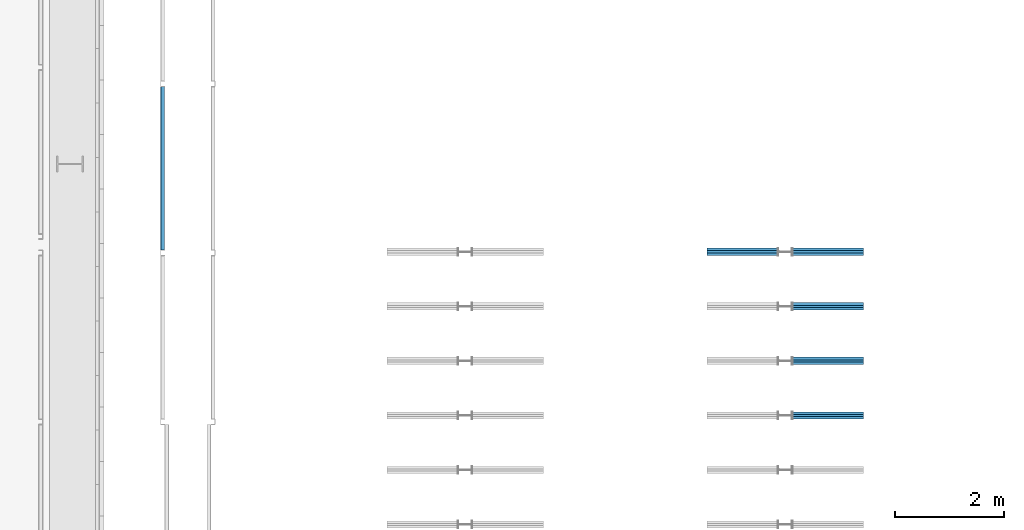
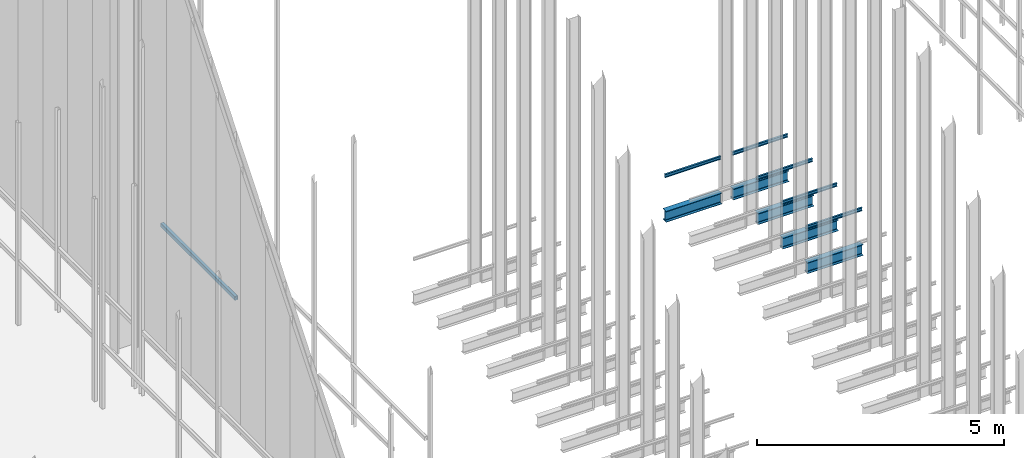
# One storey, part 185 of 302: 11 beams.
"""IFC2X3 building model written with IfcOpenShell, lengths in metres."""

from ifc_helpers import new_model, entity, si_unit, converted_unit, derived_unit, direction, frame, frame_2d, origin, place, context, subcontext, project, spatial, polyline, circle_curve, parameter, trimmed, segment, composite_curve, i_section, outline, extrude, material, type_object, element, save


model = new_model("IFC2X3")

# Units and contexts
model_context = context("Model", 3, precision=1e-05, world=origin(), true_north=direction((6.12303176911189e-17, 1.0)))
body_context = subcontext(model_context, "Body", "Model", "MODEL_VIEW")
ifc_project = project(units=[si_unit("LENGTHUNIT", "METRE"), si_unit("AREAUNIT", "SQUARE_METRE"), si_unit("VOLUMEUNIT", "CUBIC_METRE"), converted_unit("PLANEANGLEUNIT", "DEGREE", entity("IfcRatioMeasure", 0.0174532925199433), si_unit("PLANEANGLEUNIT", "RADIAN"), dimensions=[0, 0, 0, 0, 0, 0, 0]), si_unit("MASSUNIT", "GRAM", prefix="KILO"), derived_unit("MASSDENSITYUNIT", [(si_unit("MASSUNIT", "GRAM", prefix="KILO"), 1), (si_unit("LENGTHUNIT", "METRE"), -3)]), derived_unit("MOMENTOFINERTIAUNIT", [(si_unit("LENGTHUNIT", "METRE"), 4)]), si_unit("TIMEUNIT", "SECOND"), si_unit("FREQUENCYUNIT", "HERTZ"), si_unit("THERMODYNAMICTEMPERATUREUNIT", "DEGREE_CELSIUS"), derived_unit("THERMALTRANSMITTANCEUNIT", [(si_unit("MASSUNIT", "GRAM", prefix="KILO"), 1), (si_unit("THERMODYNAMICTEMPERATUREUNIT", "KELVIN"), -1), (si_unit("TIMEUNIT", "SECOND"), -3)]), derived_unit("VOLUMETRICFLOWRATEUNIT", [(si_unit("LENGTHUNIT", "METRE"), 3), (si_unit("TIMEUNIT", "SECOND"), -1)]), si_unit("ELECTRICCURRENTUNIT", "AMPERE"), si_unit("ELECTRICVOLTAGEUNIT", "VOLT"), si_unit("POWERUNIT", "WATT"), si_unit("FORCEUNIT", "NEWTON", prefix="KILO"), si_unit("ILLUMINANCEUNIT", "LUX"), si_unit("LUMINOUSFLUXUNIT", "LUMEN"), si_unit("LUMINOUSINTENSITYUNIT", "CANDELA"), derived_unit("USERDEFINED", [(si_unit("MASSUNIT", "GRAM", prefix="KILO"), -1), (si_unit("LENGTHUNIT", "METRE"), -2), (si_unit("TIMEUNIT", "SECOND"), 3), (si_unit("LUMINOUSFLUXUNIT", "LUMEN"), 1)]), derived_unit("LINEARVELOCITYUNIT", [(si_unit("LENGTHUNIT", "METRE"), 1), (si_unit("TIMEUNIT", "SECOND"), -1)]), si_unit("PRESSUREUNIT", "PASCAL"), derived_unit("USERDEFINED", [(si_unit("LENGTHUNIT", "METRE"), -2), (si_unit("MASSUNIT", "GRAM", prefix="KILO"), 1), (si_unit("TIMEUNIT", "SECOND"), -2)]), derived_unit("LINEARFORCEUNIT", [(si_unit("MASSUNIT", "GRAM", prefix="KILO"), 1), (si_unit("LENGTHUNIT", "METRE"), 1), (si_unit("TIMEUNIT", "SECOND"), -2), (si_unit("LENGTHUNIT", "METRE"), -1)]), derived_unit("PLANARFORCEUNIT", [(si_unit("MASSUNIT", "GRAM", prefix="KILO"), 1), (si_unit("LENGTHUNIT", "METRE"), 1), (si_unit("TIMEUNIT", "SECOND"), -2), (si_unit("LENGTHUNIT", "METRE"), -2)])], contexts=[model_context])

# Site, building, storey
site_placement = place(None, origin())
site = spatial("IfcSite", under=ifc_project, at=site_placement, Name="Default", CompositionType="ELEMENT")
building_placement = place(site_placement, origin())
building = spatial("IfcBuilding", under=site, at=building_placement, CompositionType="ELEMENT")
storey_placement = place(building_placement, frame((0.0, 0.0, -1.3)))
storey = spatial("IfcBuildingStorey", under=building, at=storey_placement, Name="00_EG", CompositionType="ELEMENT", Elevation=-1.3)

# Beams
ifc_material_1 = material(Name="Metall - Baustahl S235 blau")
beam_type_1 = type_object("IfcBeamType", Name="RHS Träger (EN 10219-2):RHS 100 x 75 x 5", PredefinedType="NOTDEFINED")
beam_1_placement = place(storey_placement, frame((-176.155111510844, 55.0480889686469, 2.885), z_axis=(0.0, 0.0, 1.0), x_axis=(0.0, 1.0, 0.0)))
element("IfcBeam", 1, at=beam_1_placement, inside=storey, type_object=beam_type_1, material=ifc_material_1, Name="RHS Träger (EN 10219-2):RHS 100 x 75 x 5", ObjectType="RHS Träger (EN 10219-2):RHS 100 x 75 x 5", context=body_context, shape_type="SweptSolid", body=[
    extrude(outline(composite_curve([segment(trimmed(circle_curve(frame_2d((-0.0274999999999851, -0.0400000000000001), x_axis=(1.0, 0.0)), 0.01), [parameter(180.0)], [parameter(270.0)], True, "PARAMETER"), True, "CONTINUOUS"), segment(polyline([(-0.0274999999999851, -0.05), (0.0274999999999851, -0.05)]), True, "CONTINUOUS"), segment(trimmed(circle_curve(frame_2d((0.0274999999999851, -0.0400000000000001), x_axis=(1.0, 0.0)), 0.01), [parameter(270.0)], [parameter(5.08888749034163e-14)], True, "PARAMETER"), True, "CONTINUOUS"), segment(polyline([(0.0375000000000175, -0.0399999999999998), (0.0375000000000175, 0.0400000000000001)]), True, "CONTINUOUS"), segment(trimmed(circle_curve(frame_2d((0.0274999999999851, 0.0399999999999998), x_axis=(1.0, 0.0)), 0.01), [parameter(360.0)], [parameter(89.9999999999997)], True, "PARAMETER"), True, "CONTINUOUS"), segment(polyline([(0.0274999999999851, 0.05), (-0.0274999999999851, 0.05)]), True, "CONTINUOUS"), segment(trimmed(circle_curve(frame_2d((-0.0274999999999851, 0.0399999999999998), x_axis=(1.0, 0.0)), 0.01), [parameter(90.0000000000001)], [parameter(180.0)], True, "PARAMETER"), True, "CONTINUOUS"), segment(polyline([(-0.0374999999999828, 0.0400000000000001), (-0.0374999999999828, -0.0399999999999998)]), True, "CONTINUOUS")], self_intersect=False), holes=[composite_curve([segment(polyline([(0.0274999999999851, -0.0450000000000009), (-0.0274999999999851, -0.0450000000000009)]), True, "CONTINUOUS"), segment(trimmed(circle_curve(frame_2d((-0.0274999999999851, -0.0400000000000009), x_axis=(1.0, 0.0)), 0.005), [parameter(180.0)], [parameter(270.0)], True, "PARAMETER"), False, "CONTINUOUS"), segment(polyline([(-0.0325000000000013, -0.0400000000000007), (-0.0325000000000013, 0.0399999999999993)]), True, "CONTINUOUS"), segment(trimmed(circle_curve(frame_2d((-0.0274999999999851, 0.039999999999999), x_axis=(1.0, 0.0)), 0.005), [parameter(90.0000000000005)], [parameter(180.0)], True, "PARAMETER"), False, "CONTINUOUS"), segment(polyline([(-0.0274999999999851, 0.0449999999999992), (0.0274999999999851, 0.0449999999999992)]), True, "CONTINUOUS"), segment(trimmed(circle_curve(frame_2d((0.0274999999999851, 0.039999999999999), x_axis=(1.0, 0.0)), 0.005), [parameter(0.0)], [parameter(90.0000000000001)], True, "PARAMETER"), False, "CONTINUOUS"), segment(polyline([(0.0325000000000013, 0.0399999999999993), (0.0325000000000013, -0.0400000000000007)]), True, "CONTINUOUS"), segment(trimmed(circle_curve(frame_2d((0.0274999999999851, -0.0400000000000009), x_axis=(1.0, 0.0)), 0.005), [parameter(270.0)], [parameter(4.07110999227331e-13)], True, "PARAMETER"), False, "CONTINUOUS")], self_intersect=False)]), frame((9.99999999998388e-05, 0.0375000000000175, -0.0500000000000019), z_axis=(1.0, 0.0, 0.0), x_axis=(0.0, -1.0, 0.0)), (0.0, 0.0, 1.0), 2.99979999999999),
])
ifc_material_2 = material(Name="Metall - Baustahl S235")
beam_type_2 = type_object("IfcBeamType", Name="IPN Träger:IPN 80", PredefinedType="NOTDEFINED")
beam_2_placement = place(storey_placement, frame((-164.640111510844, 54.9945889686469, 2.42)))
element("IfcBeam", 2, at=beam_2_placement, inside=storey, type_object=beam_type_2, material=ifc_material_2, Name="IPN Träger:IPN 80", ObjectType="IPN Träger:IPN 80", context=body_context, shape_type="SweptSolid", body=[
    extrude(outline(composite_curve([segment(polyline([(0.0375704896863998, -0.0210000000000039), (0.0399999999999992, -0.0210000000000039)]), True, "CONTINUOUS"), segment(polyline([(0.0399999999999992, -0.0210000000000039), (0.0399999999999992, 0.0209999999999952)]), True, "CONTINUOUS"), segment(polyline([(0.039999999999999, 0.0209999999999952), (0.037570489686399, 0.0209999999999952)]), True, "CONTINUOUS"), segment(trimmed(circle_curve(frame_2d((0.0375704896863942, 0.0187000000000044), x_axis=(0.0, 1.0)), 0.0022999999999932), [parameter(0.0)], [parameter(82.0300000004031)], True, "PARAMETER"), True, "CONTINUOUS"), segment(polyline([(0.0352927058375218, 0.019018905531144), (0.0333732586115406, 0.00530924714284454)]), True, "CONTINUOUS"), segment(trimmed(circle_curve(frame_2d((0.0295109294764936, 0.00584999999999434), x_axis=(0.990340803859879, -0.138654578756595)), 0.00389999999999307), [parameter(277.969999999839)], [parameter(0.0)], True, "PARAMETER"), False, "CONTINUOUS"), segment(polyline([(0.0295109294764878, 0.00194999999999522), (-0.0295109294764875, 0.00194999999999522)]), True, "CONTINUOUS"), segment(trimmed(circle_curve(frame_2d((-0.0295109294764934, 0.00584999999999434), x_axis=(0.0, -1.0)), 0.00389999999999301), [parameter(277.969999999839)], [parameter(0.0)], True, "PARAMETER"), False, "CONTINUOUS"), segment(polyline([(-0.0333732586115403, 0.00530924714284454), (-0.0352927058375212, 0.019018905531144)]), True, "CONTINUOUS"), segment(trimmed(circle_curve(frame_2d((-0.0375704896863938, 0.0187000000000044), x_axis=(0.990340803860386, 0.138654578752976)), 0.00229999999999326), [parameter(0.0)], [parameter(82.0300000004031)], True, "PARAMETER"), True, "CONTINUOUS"), segment(polyline([(-0.0375704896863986, 0.0209999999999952), (-0.0400000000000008, 0.0209999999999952)]), True, "CONTINUOUS"), segment(polyline([(-0.0400000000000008, 0.0209999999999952), (-0.0400000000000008, -0.0210000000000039)]), True, "CONTINUOUS"), segment(polyline([(-0.0400000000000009, -0.0210000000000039), (-0.037570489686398, -0.0210000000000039)]), True, "CONTINUOUS"), segment(trimmed(circle_curve(frame_2d((-0.0375704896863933, -0.0187000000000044), x_axis=(0.0, -1.0)), 0.00229999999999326), [parameter(0.0)], [parameter(82.0300000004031)], True, "PARAMETER"), True, "CONTINUOUS"), segment(polyline([(-0.0352927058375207, -0.019018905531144), (-0.0333732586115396, -0.00530924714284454)]), True, "CONTINUOUS"), segment(trimmed(circle_curve(frame_2d((-0.0295109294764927, -0.00584999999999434), x_axis=(-0.990340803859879, 0.138654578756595)), 0.00389999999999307), [parameter(277.969999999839)], [parameter(0.0)], True, "PARAMETER"), False, "CONTINUOUS"), segment(polyline([(-0.0295109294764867, -0.00195000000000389), (0.0295109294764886, -0.00195000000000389)]), True, "CONTINUOUS"), segment(trimmed(circle_curve(frame_2d((0.0295109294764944, -0.00584999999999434), x_axis=(0.0, 1.0)), 0.00389999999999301), [parameter(277.969999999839)], [parameter(0.0)], True, "PARAMETER"), False, "CONTINUOUS"), segment(polyline([(0.0333732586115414, -0.00530924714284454), (0.0352927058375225, -0.019018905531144)]), True, "CONTINUOUS"), segment(trimmed(circle_curve(frame_2d((0.0375704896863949, -0.0187000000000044), x_axis=(-0.990340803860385, -0.138654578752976)), 0.00229999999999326), [parameter(0.0)], [parameter(82.0300000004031)], True, "PARAMETER"), True, "CONTINUOUS")], self_intersect=False)), frame((9.99999999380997e-05, 0.0209999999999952, -0.0400000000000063), z_axis=(1.0, 0.0, 0.0), x_axis=(0.0, 0.0, -1.0)), (0.0, 0.0, 1.0), 1.29990000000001),
])
beam_3_placement = place(storey_placement, frame((-164.910111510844, 55.0365889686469, 2.42), z_axis=(0.0, 0.0, 1.0), x_axis=(-1.0, 0.0, 0.0)))
element("IfcBeam", 3, at=beam_3_placement, inside=storey, type_object=beam_type_2, material=ifc_material_2, Name="IPN Träger:IPN 80", ObjectType="IPN Träger:IPN 80", context=body_context, shape_type="SweptSolid", body=[
    extrude(outline(composite_curve([segment(polyline([(0.0375704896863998, -0.0209999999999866), (0.0399999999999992, -0.0209999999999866)]), True, "CONTINUOUS"), segment(polyline([(0.0399999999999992, -0.0209999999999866), (0.0399999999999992, 0.0210000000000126)]), True, "CONTINUOUS"), segment(polyline([(0.039999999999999, 0.0210000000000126), (0.037570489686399, 0.0210000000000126)]), True, "CONTINUOUS"), segment(trimmed(circle_curve(frame_2d((0.0375704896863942, 0.0187000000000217), x_axis=(0.0, 1.0)), 0.0022999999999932), [parameter(0.0)], [parameter(82.0300000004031)], True, "PARAMETER"), True, "CONTINUOUS"), segment(polyline([(0.0352927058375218, 0.0190189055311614), (0.0333732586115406, 0.00530924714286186)]), True, "CONTINUOUS"), segment(trimmed(circle_curve(frame_2d((0.0295109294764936, 0.00585000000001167), x_axis=(0.990340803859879, -0.138654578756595)), 0.00389999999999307), [parameter(277.969999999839)], [parameter(0.0)], True, "PARAMETER"), False, "CONTINUOUS"), segment(polyline([(0.0295109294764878, 0.00195000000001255), (-0.0295109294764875, 0.00195000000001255)]), True, "CONTINUOUS"), segment(trimmed(circle_curve(frame_2d((-0.0295109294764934, 0.00585000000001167), x_axis=(0.0, -1.0)), 0.00389999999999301), [parameter(277.969999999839)], [parameter(0.0)], True, "PARAMETER"), False, "CONTINUOUS"), segment(polyline([(-0.0333732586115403, 0.00530924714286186), (-0.0352927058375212, 0.0190189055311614)]), True, "CONTINUOUS"), segment(trimmed(circle_curve(frame_2d((-0.0375704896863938, 0.0187000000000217), x_axis=(0.990340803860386, 0.138654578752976)), 0.00229999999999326), [parameter(0.0)], [parameter(82.0300000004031)], True, "PARAMETER"), True, "CONTINUOUS"), segment(polyline([(-0.0375704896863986, 0.0210000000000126), (-0.0400000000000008, 0.0210000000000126)]), True, "CONTINUOUS"), segment(polyline([(-0.0400000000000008, 0.0210000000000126), (-0.0400000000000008, -0.0209999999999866)]), True, "CONTINUOUS"), segment(polyline([(-0.0400000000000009, -0.0209999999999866), (-0.037570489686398, -0.0209999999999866)]), True, "CONTINUOUS"), segment(trimmed(circle_curve(frame_2d((-0.0375704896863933, -0.0186999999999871), x_axis=(0.0, -1.0)), 0.00229999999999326), [parameter(0.0)], [parameter(82.0300000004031)], True, "PARAMETER"), True, "CONTINUOUS"), segment(polyline([(-0.0352927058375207, -0.0190189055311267), (-0.0333732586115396, -0.00530924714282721)]), True, "CONTINUOUS"), segment(trimmed(circle_curve(frame_2d((-0.0295109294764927, -0.00584999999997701), x_axis=(-0.990340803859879, 0.138654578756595)), 0.00389999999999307), [parameter(277.969999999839)], [parameter(0.0)], True, "PARAMETER"), False, "CONTINUOUS"), segment(polyline([(-0.0295109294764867, -0.00194999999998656), (0.0295109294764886, -0.00194999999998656)]), True, "CONTINUOUS"), segment(trimmed(circle_curve(frame_2d((0.0295109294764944, -0.00584999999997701), x_axis=(0.0, 1.0)), 0.00389999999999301), [parameter(277.969999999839)], [parameter(0.0)], True, "PARAMETER"), False, "CONTINUOUS"), segment(polyline([(0.0333732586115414, -0.00530924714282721), (0.0352927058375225, -0.0190189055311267)]), True, "CONTINUOUS"), segment(trimmed(circle_curve(frame_2d((0.0375704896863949, -0.0186999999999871), x_axis=(-0.990340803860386, -0.138654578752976)), 0.00229999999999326), [parameter(0.0)], [parameter(82.0300000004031)], True, "PARAMETER"), True, "CONTINUOUS")], self_intersect=False)), frame((0.000100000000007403, 0.0209999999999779, -0.0400000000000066), z_axis=(1.0, 0.0, 0.0), x_axis=(0.0, 0.0, -1.0)), (0.0, 0.0, 1.0), 1.29990000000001),
])
beam_4_placement = place(storey_placement, frame((-164.640111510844, 53.9945889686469, 2.42)))
element("IfcBeam", 4, at=beam_4_placement, inside=storey, type_object=beam_type_2, material=ifc_material_2, Name="IPN Träger:IPN 80", ObjectType="IPN Träger:IPN 80", context=body_context, shape_type="SweptSolid", body=[
    extrude(outline(composite_curve([segment(polyline([(0.0375704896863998, -0.0210000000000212), (0.0399999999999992, -0.0210000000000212)]), True, "CONTINUOUS"), segment(polyline([(0.0399999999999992, -0.0210000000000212), (0.0399999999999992, 0.0209999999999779)]), True, "CONTINUOUS"), segment(polyline([(0.039999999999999, 0.0209999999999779), (0.037570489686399, 0.0209999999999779)]), True, "CONTINUOUS"), segment(trimmed(circle_curve(frame_2d((0.0375704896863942, 0.0186999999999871), x_axis=(0.0, 1.0)), 0.0022999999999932), [parameter(0.0)], [parameter(82.0300000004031)], True, "PARAMETER"), True, "CONTINUOUS"), segment(polyline([(0.0352927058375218, 0.0190189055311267), (0.0333732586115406, 0.00530924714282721)]), True, "CONTINUOUS"), segment(trimmed(circle_curve(frame_2d((0.0295109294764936, 0.00584999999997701), x_axis=(0.990340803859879, -0.138654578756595)), 0.00389999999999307), [parameter(277.969999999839)], [parameter(0.0)], True, "PARAMETER"), False, "CONTINUOUS"), segment(polyline([(0.0295109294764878, 0.0019499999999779), (-0.0295109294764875, 0.0019499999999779)]), True, "CONTINUOUS"), segment(trimmed(circle_curve(frame_2d((-0.0295109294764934, 0.00584999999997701), x_axis=(0.0, -1.0)), 0.00389999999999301), [parameter(277.969999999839)], [parameter(0.0)], True, "PARAMETER"), False, "CONTINUOUS"), segment(polyline([(-0.0333732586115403, 0.00530924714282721), (-0.0352927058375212, 0.0190189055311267)]), True, "CONTINUOUS"), segment(trimmed(circle_curve(frame_2d((-0.0375704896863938, 0.0186999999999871), x_axis=(0.990340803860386, 0.138654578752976)), 0.00229999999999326), [parameter(0.0)], [parameter(82.0300000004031)], True, "PARAMETER"), True, "CONTINUOUS"), segment(polyline([(-0.0375704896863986, 0.0209999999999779), (-0.0400000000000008, 0.0209999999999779)]), True, "CONTINUOUS"), segment(polyline([(-0.0400000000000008, 0.0209999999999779), (-0.0400000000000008, -0.0210000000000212)]), True, "CONTINUOUS"), segment(polyline([(-0.0400000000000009, -0.0210000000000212), (-0.037570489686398, -0.0210000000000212)]), True, "CONTINUOUS"), segment(trimmed(circle_curve(frame_2d((-0.0375704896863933, -0.0187000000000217), x_axis=(0.0, -1.0)), 0.00229999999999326), [parameter(0.0)], [parameter(82.0300000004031)], True, "PARAMETER"), True, "CONTINUOUS"), segment(polyline([(-0.0352927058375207, -0.0190189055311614), (-0.0333732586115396, -0.00530924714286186)]), True, "CONTINUOUS"), segment(trimmed(circle_curve(frame_2d((-0.0295109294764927, -0.00585000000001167), x_axis=(-0.990340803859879, 0.138654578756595)), 0.00389999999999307), [parameter(277.969999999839)], [parameter(0.0)], True, "PARAMETER"), False, "CONTINUOUS"), segment(polyline([(-0.0295109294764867, -0.00195000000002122), (0.0295109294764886, -0.00195000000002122)]), True, "CONTINUOUS"), segment(trimmed(circle_curve(frame_2d((0.0295109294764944, -0.00585000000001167), x_axis=(0.0, 1.0)), 0.00389999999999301), [parameter(277.969999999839)], [parameter(0.0)], True, "PARAMETER"), False, "CONTINUOUS"), segment(polyline([(0.0333732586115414, -0.00530924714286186), (0.0352927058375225, -0.0190189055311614)]), True, "CONTINUOUS"), segment(trimmed(circle_curve(frame_2d((0.0375704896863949, -0.0187000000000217), x_axis=(-0.990340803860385, -0.138654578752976)), 0.00229999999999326), [parameter(0.0)], [parameter(82.0300000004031)], True, "PARAMETER"), True, "CONTINUOUS")], self_intersect=False)), frame((9.99999999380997e-05, 0.0210000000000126, -0.0400000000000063), z_axis=(1.0, 0.0, 0.0), x_axis=(0.0, 0.0, -1.0)), (0.0, 0.0, 1.0), 1.29990000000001),
])
beam_5_placement = place(storey_placement, frame((-164.640111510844, 52.9945889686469, 2.42)))
element("IfcBeam", 5, at=beam_5_placement, inside=storey, type_object=beam_type_2, material=ifc_material_2, Name="IPN Träger:IPN 80", ObjectType="IPN Träger:IPN 80", context=body_context, shape_type="SweptSolid", body=[
    extrude(outline(composite_curve([segment(polyline([(0.0375704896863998, -0.0210000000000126), (0.0399999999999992, -0.0210000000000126)]), True, "CONTINUOUS"), segment(polyline([(0.0399999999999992, -0.0210000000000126), (0.0399999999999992, 0.0209999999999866)]), True, "CONTINUOUS"), segment(polyline([(0.039999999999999, 0.0209999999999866), (0.037570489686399, 0.0209999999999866)]), True, "CONTINUOUS"), segment(trimmed(circle_curve(frame_2d((0.0375704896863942, 0.0186999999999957), x_axis=(0.0, 1.0)), 0.0022999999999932), [parameter(0.0)], [parameter(82.0300000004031)], True, "PARAMETER"), True, "CONTINUOUS"), segment(polyline([(0.0352927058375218, 0.0190189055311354), (0.0333732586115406, 0.00530924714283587)]), True, "CONTINUOUS"), segment(trimmed(circle_curve(frame_2d((0.0295109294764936, 0.00584999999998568), x_axis=(0.990340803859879, -0.138654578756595)), 0.00389999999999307), [parameter(277.969999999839)], [parameter(0.0)], True, "PARAMETER"), False, "CONTINUOUS"), segment(polyline([(0.0295109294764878, 0.00194999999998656), (-0.0295109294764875, 0.00194999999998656)]), True, "CONTINUOUS"), segment(trimmed(circle_curve(frame_2d((-0.0295109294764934, 0.00584999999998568), x_axis=(0.0, -1.0)), 0.00389999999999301), [parameter(277.969999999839)], [parameter(0.0)], True, "PARAMETER"), False, "CONTINUOUS"), segment(polyline([(-0.0333732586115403, 0.00530924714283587), (-0.0352927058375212, 0.0190189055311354)]), True, "CONTINUOUS"), segment(trimmed(circle_curve(frame_2d((-0.0375704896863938, 0.0186999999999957), x_axis=(0.990340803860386, 0.138654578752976)), 0.00229999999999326), [parameter(0.0)], [parameter(82.0300000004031)], True, "PARAMETER"), True, "CONTINUOUS"), segment(polyline([(-0.0375704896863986, 0.0209999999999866), (-0.0400000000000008, 0.0209999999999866)]), True, "CONTINUOUS"), segment(polyline([(-0.0400000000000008, 0.0209999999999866), (-0.0400000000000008, -0.0210000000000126)]), True, "CONTINUOUS"), segment(polyline([(-0.0400000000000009, -0.0210000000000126), (-0.037570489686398, -0.0210000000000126)]), True, "CONTINUOUS"), segment(trimmed(circle_curve(frame_2d((-0.0375704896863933, -0.0187000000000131), x_axis=(0.0, -1.0)), 0.00229999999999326), [parameter(0.0)], [parameter(82.0300000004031)], True, "PARAMETER"), True, "CONTINUOUS"), segment(polyline([(-0.0352927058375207, -0.0190189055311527), (-0.0333732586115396, -0.0053092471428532)]), True, "CONTINUOUS"), segment(trimmed(circle_curve(frame_2d((-0.0295109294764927, -0.005850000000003), x_axis=(-0.990340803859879, 0.138654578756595)), 0.00389999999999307), [parameter(277.969999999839)], [parameter(0.0)], True, "PARAMETER"), False, "CONTINUOUS"), segment(polyline([(-0.0295109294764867, -0.00195000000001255), (0.0295109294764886, -0.00195000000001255)]), True, "CONTINUOUS"), segment(trimmed(circle_curve(frame_2d((0.0295109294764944, -0.005850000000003), x_axis=(0.0, 1.0)), 0.00389999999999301), [parameter(277.969999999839)], [parameter(0.0)], True, "PARAMETER"), False, "CONTINUOUS"), segment(polyline([(0.0333732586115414, -0.0053092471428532), (0.0352927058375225, -0.0190189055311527)]), True, "CONTINUOUS"), segment(trimmed(circle_curve(frame_2d((0.0375704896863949, -0.0187000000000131), x_axis=(-0.990340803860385, -0.138654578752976)), 0.00229999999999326), [parameter(0.0)], [parameter(82.0300000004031)], True, "PARAMETER"), True, "CONTINUOUS")], self_intersect=False)), frame((9.99999999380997e-05, 0.0210000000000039, -0.0400000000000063), z_axis=(1.0, 0.0, 0.0), x_axis=(0.0, 0.0, -1.0)), (0.0, 0.0, 1.0), 1.29990000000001),
])
beam_6_placement = place(storey_placement, frame((-164.640111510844, 51.9945889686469, 2.42)))
element("IfcBeam", 6, at=beam_6_placement, inside=storey, type_object=beam_type_2, material=ifc_material_2, Name="IPN Träger:IPN 80", ObjectType="IPN Träger:IPN 80", context=body_context, shape_type="SweptSolid", body=[
    extrude(outline(composite_curve([segment(polyline([(0.0375704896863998, -0.0209999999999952), (0.0399999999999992, -0.0209999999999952)]), True, "CONTINUOUS"), segment(polyline([(0.0399999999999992, -0.0209999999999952), (0.0399999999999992, 0.0210000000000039)]), True, "CONTINUOUS"), segment(polyline([(0.039999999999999, 0.0210000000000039), (0.037570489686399, 0.0210000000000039)]), True, "CONTINUOUS"), segment(trimmed(circle_curve(frame_2d((0.0375704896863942, 0.0187000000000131), x_axis=(0.0, 1.0)), 0.0022999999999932), [parameter(0.0)], [parameter(82.0300000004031)], True, "PARAMETER"), True, "CONTINUOUS"), segment(polyline([(0.0352927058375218, 0.0190189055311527), (0.0333732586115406, 0.0053092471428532)]), True, "CONTINUOUS"), segment(trimmed(circle_curve(frame_2d((0.0295109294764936, 0.005850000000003), x_axis=(0.990340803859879, -0.138654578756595)), 0.00389999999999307), [parameter(277.969999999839)], [parameter(0.0)], True, "PARAMETER"), False, "CONTINUOUS"), segment(polyline([(0.0295109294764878, 0.00195000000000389), (-0.0295109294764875, 0.00195000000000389)]), True, "CONTINUOUS"), segment(trimmed(circle_curve(frame_2d((-0.0295109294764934, 0.005850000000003), x_axis=(0.0, -1.0)), 0.00389999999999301), [parameter(277.969999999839)], [parameter(0.0)], True, "PARAMETER"), False, "CONTINUOUS"), segment(polyline([(-0.0333732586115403, 0.0053092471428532), (-0.0352927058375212, 0.0190189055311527)]), True, "CONTINUOUS"), segment(trimmed(circle_curve(frame_2d((-0.0375704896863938, 0.0187000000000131), x_axis=(0.990340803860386, 0.138654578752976)), 0.00229999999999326), [parameter(0.0)], [parameter(82.0300000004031)], True, "PARAMETER"), True, "CONTINUOUS"), segment(polyline([(-0.0375704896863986, 0.0210000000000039), (-0.0400000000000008, 0.0210000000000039)]), True, "CONTINUOUS"), segment(polyline([(-0.0400000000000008, 0.0210000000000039), (-0.0400000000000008, -0.0209999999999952)]), True, "CONTINUOUS"), segment(polyline([(-0.0400000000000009, -0.0209999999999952), (-0.037570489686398, -0.0209999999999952)]), True, "CONTINUOUS"), segment(trimmed(circle_curve(frame_2d((-0.0375704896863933, -0.0186999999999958), x_axis=(0.0, -1.0)), 0.00229999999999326), [parameter(0.0)], [parameter(82.0300000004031)], True, "PARAMETER"), True, "CONTINUOUS"), segment(polyline([(-0.0352927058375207, -0.0190189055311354), (-0.0333732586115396, -0.00530924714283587)]), True, "CONTINUOUS"), segment(trimmed(circle_curve(frame_2d((-0.0295109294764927, -0.00584999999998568), x_axis=(-0.990340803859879, 0.138654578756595)), 0.00389999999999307), [parameter(277.969999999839)], [parameter(0.0)], True, "PARAMETER"), False, "CONTINUOUS"), segment(polyline([(-0.0295109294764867, -0.00194999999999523), (0.0295109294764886, -0.00194999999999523)]), True, "CONTINUOUS"), segment(trimmed(circle_curve(frame_2d((0.0295109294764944, -0.00584999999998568), x_axis=(0.0, 1.0)), 0.00389999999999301), [parameter(277.969999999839)], [parameter(0.0)], True, "PARAMETER"), False, "CONTINUOUS"), segment(polyline([(0.0333732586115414, -0.00530924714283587), (0.0352927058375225, -0.0190189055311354)]), True, "CONTINUOUS"), segment(trimmed(circle_curve(frame_2d((0.0375704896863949, -0.0186999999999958), x_axis=(-0.990340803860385, -0.138654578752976)), 0.00229999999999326), [parameter(0.0)], [parameter(82.0300000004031)], True, "PARAMETER"), True, "CONTINUOUS")], self_intersect=False)), frame((9.99999999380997e-05, 0.0209999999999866, -0.0400000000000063), z_axis=(1.0, 0.0, 0.0), x_axis=(0.0, 0.0, -1.0)), (0.0, 0.0, 1.0), 1.29990000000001),
])
beam_type_3 = type_object("IfcBeamType", Name="IPE Träger:IPE 270", PredefinedType="NOTDEFINED")
beam_7_placement = place(storey_placement, frame((-164.640111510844, 52.0830889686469, 1.54000000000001)))
element("IfcBeam", 7, at=beam_7_placement, inside=storey, type_object=beam_type_3, material=ifc_material_2, Name="IPE Träger:IPE 270", ObjectType="IPE Träger:IPE 270", context=body_context, shape_type="SweptSolid", body=[
    extrude(i_section(OverallWidth=0.134999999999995, OverallDepth=0.27, WebThickness=0.0065999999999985, FlangeThickness=0.0102000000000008, FilletRadius=0.0149999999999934, at=frame_2d((5.96744875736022e-16, 0.0), x_axis=(0.0, 1.0))), frame((9.99999999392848e-05, -0.067500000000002, -0.135000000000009), z_axis=(1.0, 0.0, 0.0), x_axis=(0.0, 0.0, -1.0)), (0.0, 0.0, 1.0), 1.29990000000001),
])
beam_8_placement = place(storey_placement, frame((-164.640111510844, 53.0830889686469, 1.54000000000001)))
element("IfcBeam", 8, at=beam_8_placement, inside=storey, type_object=beam_type_3, material=ifc_material_2, Name="IPE Träger:IPE 270", ObjectType="IPE Träger:IPE 270", context=body_context, shape_type="SweptSolid", body=[
    extrude(i_section(OverallWidth=0.134999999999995, OverallDepth=0.27, WebThickness=0.0065999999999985, FlangeThickness=0.0102000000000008, FilletRadius=0.0149999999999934, at=frame_2d((5.96744875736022e-16, 0.0), x_axis=(0.0, 1.0))), frame((9.99999999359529e-05, -0.067500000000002, -0.135000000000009), z_axis=(1.0, 0.0, 0.0), x_axis=(0.0, 0.0, -1.0)), (0.0, 0.0, 1.0), 1.29990000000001),
])
beam_9_placement = place(storey_placement, frame((-164.640111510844, 54.0830889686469, 1.54000000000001)))
element("IfcBeam", 9, at=beam_9_placement, inside=storey, type_object=beam_type_3, material=ifc_material_2, Name="IPE Träger:IPE 270", ObjectType="IPE Träger:IPE 270", context=body_context, shape_type="SweptSolid", body=[
    extrude(i_section(OverallWidth=0.134999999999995, OverallDepth=0.27, WebThickness=0.0065999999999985, FlangeThickness=0.0102000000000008, FilletRadius=0.0149999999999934, at=frame_2d((5.96744875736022e-16, 0.0), x_axis=(0.0, 1.0))), frame((9.9999999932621e-05, -0.067500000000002, -0.135000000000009), z_axis=(1.0, 0.0, 0.0), x_axis=(0.0, 0.0, -1.0)), (0.0, 0.0, 1.0), 1.29990000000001),
])
beam_10_placement = place(storey_placement, frame((-164.910111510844, 55.0830889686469, 1.54000000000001), z_axis=(0.0, 0.0, 1.0), x_axis=(-1.0, 0.0, 0.0)))
element("IfcBeam", 10, at=beam_10_placement, inside=storey, type_object=beam_type_3, material=ifc_material_2, Name="IPE Träger:IPE 270", ObjectType="IPE Träger:IPE 270", context=body_context, shape_type="SweptSolid", body=[
    extrude(i_section(OverallWidth=0.134999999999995, OverallDepth=0.27, WebThickness=0.0065999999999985, FlangeThickness=0.0102000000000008, FilletRadius=0.0149999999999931, at=frame_2d((5.96744875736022e-16, 8.66667848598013e-15), x_axis=(0.0, 1.0))), frame((9.99999999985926e-05, 0.0674999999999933, -0.135000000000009), z_axis=(1.0, 0.0, 0.0), x_axis=(0.0, 0.0, -1.0)), (0.0, 0.0, 1.0), 1.29990000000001),
])
beam_11_placement = place(storey_placement, frame((-164.640111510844, 55.0830889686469, 1.54000000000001)))
element("IfcBeam", 11, at=beam_11_placement, inside=storey, type_object=beam_type_3, material=ifc_material_2, Name="IPE Träger:IPE 270", ObjectType="IPE Träger:IPE 270", context=body_context, shape_type="SweptSolid", body=[
    extrude(i_section(OverallWidth=0.134999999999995, OverallDepth=0.27, WebThickness=0.0065999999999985, FlangeThickness=0.0102000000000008, FilletRadius=0.0149999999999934, at=frame_2d((5.96744875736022e-16, -8.66667848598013e-15), x_axis=(0.0, 1.0))), frame((9.99999999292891e-05, -0.0674999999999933, -0.135000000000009), z_axis=(1.0, 0.0, 0.0), x_axis=(0.0, 0.0, -1.0)), (0.0, 0.0, 1.0), 1.29990000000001),
])

save(model, "model.ifc")
